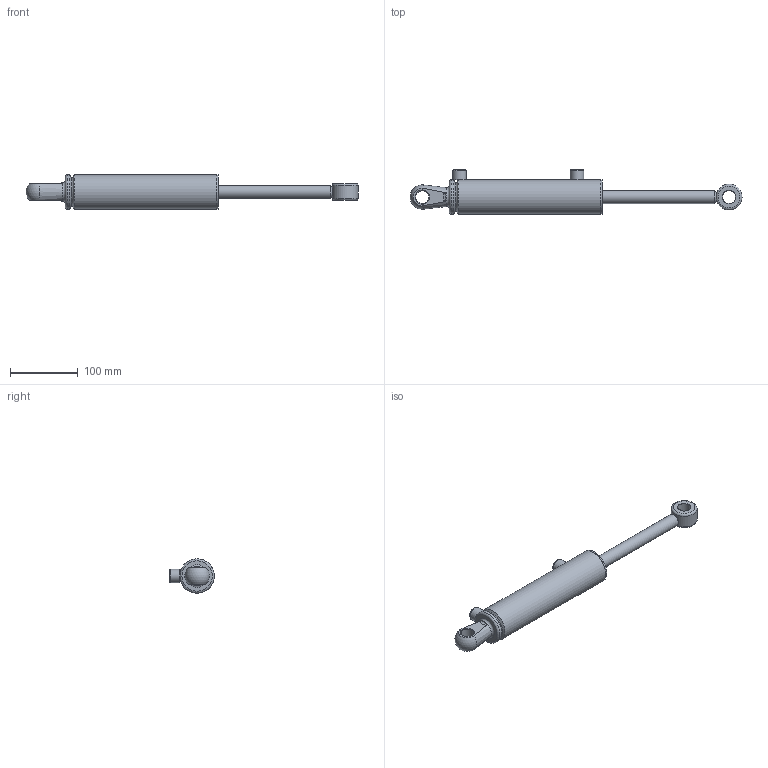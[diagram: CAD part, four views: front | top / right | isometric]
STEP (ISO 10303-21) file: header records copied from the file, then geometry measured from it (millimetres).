
FILE_DESCRIPTION(/* description */ ('Alibre Inc.'),/* implementation_level */ '2;1');
FILE_NAME(/* name */ 'export0',/* time_stamp */ '2016-08-16T09:45:35+12:00',/* author */ (''),/* organization */ (''),/* preprocessor_version */ 'ST-DEVELOPER v14',/* originating_system */ 'Alibre',/* authorisation */ '');
FILE_SCHEMA (('AUTOMOTIVE_DESIGN'));
Length unit declared in the file: centimetre
Bounding box: 490.28 x 65.8 x 50.8 mm (x, y, z)
Volume: 370323.2 mm3; surface area: 116115.3 mm2
Topology: 11 solids, 11 shells, 109 faces, 207 edges, 128 vertices
Faces by surface type: cylinder 38, plane 37, cone 21, torus 10, bspline 2, sphere 1
Full cylindrical faces by diameter (mm): 3 x2, 5.588 x1, 11.9 x2, 14.33 x2, 19.05 x3, 19.1 x2, 19.6 x1, 20 x2, 22.86 x1, 25.42 x1, 25.705 x1, 25.9 x1, 31.85 x1, 31.92 x1, 33.884 x1, 35.56 x1, 37.44 x3, 38 x3, 38.1 x2, 41.148 x1, 41.275 x2, 43.646 x1, 50.8 x3
Entity records: 3066 total; most frequent: CARTESIAN_POINT 989, DIRECTION 393, ORIENTED_EDGE 234, AXIS2_PLACEMENT_3D 218, EDGE_LOOP 204, FACE_BOUND 204, EDGE_CURVE 117, VERTEX_POINT 113
